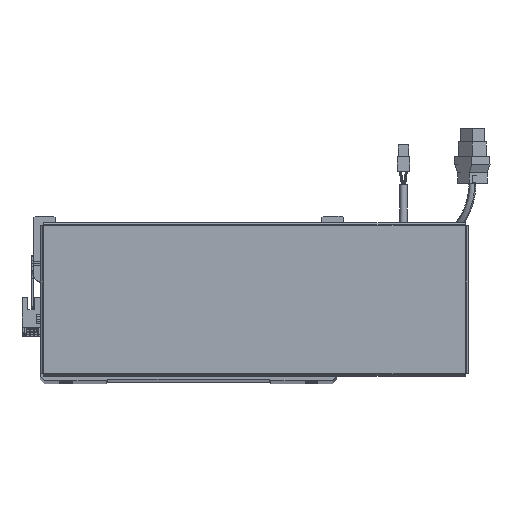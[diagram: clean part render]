
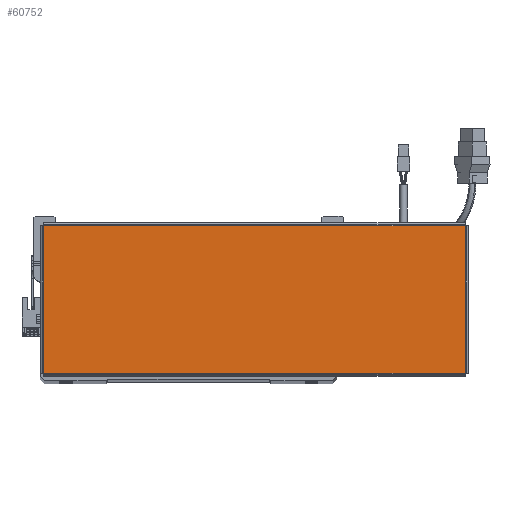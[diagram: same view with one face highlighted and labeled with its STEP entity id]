
A CAD part, top view. The second image highlights one B-rep face of the part: STEP entity #60752.
In plain terms, the highlighted planar face has unit normal (0, 0, 1).
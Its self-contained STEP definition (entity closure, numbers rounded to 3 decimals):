
#3950 = EDGE_CURVE ( 'NONE', #18130, #65814, #23135, .T. ) ;
#4140 = DIRECTION ( 'NONE',  ( 1., 0., 0. ) ) ;
#4896 = CARTESIAN_POINT ( 'NONE',  ( -156.543, -54.763, 0. ) ) ;
#5525 = DIRECTION ( 'NONE',  ( 1., 0., 0. ) ) ;
#7879 = DIRECTION ( 'NONE',  ( 0., 1., 0. ) ) ;
#9692 = CARTESIAN_POINT ( 'NONE',  ( 0., 0., 0. ) ) ;
#13265 = ORIENTED_EDGE ( 'NONE', *, *, #20400, .T. ) ;
#14899 = VECTOR ( 'NONE', #25563, 1000. ) ;
#17110 = FACE_OUTER_BOUND ( 'NONE', #39747, .T. ) ;
#18130 = VERTEX_POINT ( 'NONE', #18933 ) ;
#18933 = CARTESIAN_POINT ( 'NONE',  ( 156.513, -54.763, 0. ) ) ;
#19821 = ORIENTED_EDGE ( 'NONE', *, *, #3950, .T. ) ;
#20400 = EDGE_CURVE ( 'NONE', #54317, #62797, #26062, .T. ) ;
#22251 = VECTOR ( 'NONE', #7879, 1000. ) ;
#23135 = LINE ( 'NONE', #46927, #22251 ) ;
#25563 = DIRECTION ( 'NONE',  ( 0., -1., 0. ) ) ;
#25864 = DIRECTION ( 'NONE',  ( -1., 0., 0. ) ) ;
#26036 = CARTESIAN_POINT ( 'NONE',  ( -156.513, 54.793, 0. ) ) ;
#26062 = LINE ( 'NONE', #26036, #14899 ) ;
#28463 = VECTOR ( 'NONE', #5525, 1000. ) ;
#30288 = AXIS2_PLACEMENT_3D ( 'NONE', #9692, #70181, #4140 ) ;
#31539 = CARTESIAN_POINT ( 'NONE',  ( -156.513, -54.763, 0. ) ) ;
#34280 = ORIENTED_EDGE ( 'NONE', *, *, #67680, .T. ) ;
#35343 = VECTOR ( 'NONE', #25864, 1000. ) ;
#36245 = CARTESIAN_POINT ( 'NONE',  ( 156.543, 54.763, 0. ) ) ;
#38468 = CARTESIAN_POINT ( 'NONE',  ( -156.513, 54.763, 0. ) ) ;
#39747 = EDGE_LOOP ( 'NONE', ( #62868, #19821, #34280, #13265 ) ) ;
#42446 = PLANE ( 'NONE',  #30288 ) ;
#43528 = EDGE_CURVE ( 'NONE', #62797, #18130, #44880, .T. ) ;
#44880 = LINE ( 'NONE', #4896, #28463 ) ;
#46927 = CARTESIAN_POINT ( 'NONE',  ( 156.513, -54.793, 0. ) ) ;
#54317 = VERTEX_POINT ( 'NONE', #38468 ) ;
#60752 = ADVANCED_FACE ( 'NONE', ( #17110 ), #42446, .T. ) ;
#62797 = VERTEX_POINT ( 'NONE', #31539 ) ;
#62868 = ORIENTED_EDGE ( 'NONE', *, *, #43528, .T. ) ;
#65814 = VERTEX_POINT ( 'NONE', #66664 ) ;
#66417 = LINE ( 'NONE', #36245, #35343 ) ;
#66664 = CARTESIAN_POINT ( 'NONE',  ( 156.513, 54.763, 0. ) ) ;
#67680 = EDGE_CURVE ( 'NONE', #65814, #54317, #66417, .T. ) ;
#70181 = DIRECTION ( 'NONE',  ( 0., 0., 1. ) ) ;
